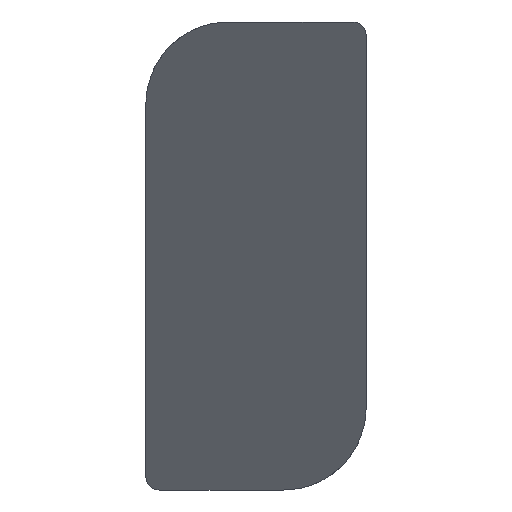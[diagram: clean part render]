
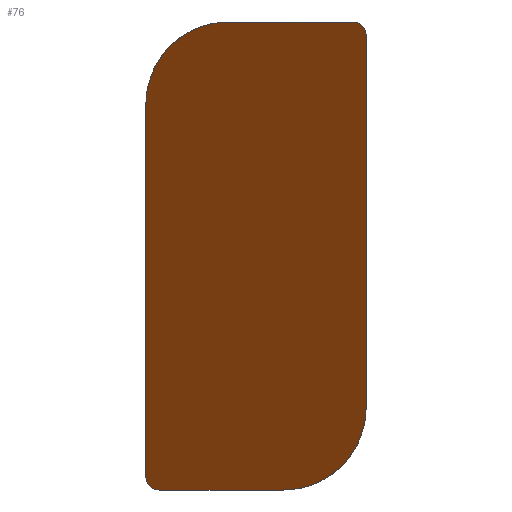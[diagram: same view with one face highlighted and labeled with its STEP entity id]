
A CAD part, left-side view. The second image highlights one B-rep face of the part: STEP entity #76.
In plain terms, the highlighted planar face has unit normal (-0.766, 0, -0.643).
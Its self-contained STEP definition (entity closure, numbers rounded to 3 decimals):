
#7 = VERTEX_POINT ( 'NONE', #61 ) ;
#19 = CARTESIAN_POINT ( 'NONE',  ( -10.5, 0.25, 4.25 ) ) ;
#20 = DIRECTION ( 'NONE',  ( 0.643, 0., -0.766 ) ) ;
#31 = ORIENTED_EDGE ( 'NONE', *, *, #131, .T. ) ;
#34 = CARTESIAN_POINT ( 'NONE',  ( -10.5, 2.5, 4.25 ) ) ;
#52 = DIRECTION ( 'NONE',  ( -0.643, 0., 0.766 ) ) ;
#58 = EDGE_LOOP ( 'NONE', ( #444, #414, #298, #31, #147, #294, #315, #200 ) ) ;
#61 = CARTESIAN_POINT ( 'NONE',  ( -10.29, 0., 4. ) ) ;
#66 = PLANE ( 'NONE',  #326 ) ;
#68 = VECTOR ( 'NONE', #128, 1000. ) ;
#70 =( BOUNDED_CURVE ( )  B_SPLINE_CURVE ( 3, ( #429, #380, #436, #118 ),
 .UNSPECIFIED., .F., .F. ) 
 B_SPLINE_CURVE_WITH_KNOTS ( ( 4, 4 ),
 ( 0., 1.571 ),
 .UNSPECIFIED. ) 
 CURVE ( )  GEOMETRIC_REPRESENTATION_ITEM ( )  RATIONAL_B_SPLINE_CURVE ( ( 1., 0.805, 0.805, 1. ) ) 
 REPRESENTATION_ITEM ( '' )  );
#71 = VERTEX_POINT ( 'NONE', #142 ) ;
#76 = ADVANCED_FACE ( 'NONE', ( #340 ), #66, .F. ) ;
#78 = DIRECTION ( 'NONE',  ( 0., -1., 0. ) ) ;
#85 = EDGE_CURVE ( 'NONE', #105, #71, #162, .T. ) ;
#88 =( BOUNDED_CURVE ( )  B_SPLINE_CURVE ( 3, ( #161, #431, #121, #426 ),
 .UNSPECIFIED., .F., .F. ) 
 B_SPLINE_CURVE_WITH_KNOTS ( ( 4, 4 ),
 ( 1.571, 3.142 ),
 .UNSPECIFIED. ) 
 CURVE ( )  GEOMETRIC_REPRESENTATION_ITEM ( )  RATIONAL_B_SPLINE_CURVE ( ( 1., 0.805, 0.805, 1. ) ) 
 REPRESENTATION_ITEM ( '' )  );
#99 = VECTOR ( 'NONE', #52, 1000. ) ;
#105 = VERTEX_POINT ( 'NONE', #417 ) ;
#111 = CARTESIAN_POINT ( 'NONE',  ( -4.626, 0., -2.75 ) ) ;
#118 = CARTESIAN_POINT ( 'NONE',  ( -9.241, 4., 2.75 ) ) ;
#121 = CARTESIAN_POINT ( 'NONE',  ( -10.5, 0.104, 4.25 ) ) ;
#128 = DIRECTION ( 'NONE',  ( 0., -1., 0. ) ) ;
#131 = EDGE_CURVE ( 'NONE', #428, #253, #290, .T. ) ;
#142 = CARTESIAN_POINT ( 'NONE',  ( -3.368, 3.75, -4.25 ) ) ;
#147 = ORIENTED_EDGE ( 'NONE', *, *, #277, .T. ) ;
#152 = CARTESIAN_POINT ( 'NONE',  ( -4.626, 0., -2.75 ) ) ;
#161 = CARTESIAN_POINT ( 'NONE',  ( -10.29, 0., 4. ) ) ;
#162 =( BOUNDED_CURVE ( )  B_SPLINE_CURVE ( 3, ( #361, #465, #239, #321 ),
 .UNSPECIFIED., .F., .F. ) 
 B_SPLINE_CURVE_WITH_KNOTS ( ( 4, 4 ),
 ( 4.712, 6.283 ),
 .UNSPECIFIED. ) 
 CURVE ( )  GEOMETRIC_REPRESENTATION_ITEM ( )  RATIONAL_B_SPLINE_CURVE ( ( 1., 0.805, 0.805, 1. ) ) 
 REPRESENTATION_ITEM ( '' )  );
#170 = LINE ( 'NONE', #390, #99 ) ;
#178 = LINE ( 'NONE', #433, #396 ) ;
#185 = VERTEX_POINT ( 'NONE', #34 ) ;
#190 = EDGE_CURVE ( 'NONE', #185, #499, #228, .T. ) ;
#194 = CARTESIAN_POINT ( 'NONE',  ( -3.368, 1.5, -4.25 ) ) ;
#200 = ORIENTED_EDGE ( 'NONE', *, *, #248, .T. ) ;
#202 = CARTESIAN_POINT ( 'NONE',  ( -3.368, 0.621, -4.25 ) ) ;
#228 = LINE ( 'NONE', #249, #357 ) ;
#239 = CARTESIAN_POINT ( 'NONE',  ( -3.368, 3.896, -4.25 ) ) ;
#248 = EDGE_CURVE ( 'NONE', #185, #381, #70, .T. ) ;
#249 = CARTESIAN_POINT ( 'NONE',  ( -10.5, 4., 4.25 ) ) ;
#253 = VERTEX_POINT ( 'NONE', #111 ) ;
#257 = EDGE_CURVE ( 'NONE', #7, #499, #88, .T. ) ;
#276 = DIRECTION ( 'NONE',  ( 0.766, 0., 0.643 ) ) ;
#277 = EDGE_CURVE ( 'NONE', #253, #7, #178, .T. ) ;
#290 =( BOUNDED_CURVE ( )  B_SPLINE_CURVE ( 3, ( #194, #202, #472, #152 ),
 .UNSPECIFIED., .F., .F. ) 
 B_SPLINE_CURVE_WITH_KNOTS ( ( 4, 4 ),
 ( 3.142, 4.712 ),
 .UNSPECIFIED. ) 
 CURVE ( )  GEOMETRIC_REPRESENTATION_ITEM ( )  RATIONAL_B_SPLINE_CURVE ( ( 1., 0.805, 0.805, 1. ) ) 
 REPRESENTATION_ITEM ( '' )  );
#294 = ORIENTED_EDGE ( 'NONE', *, *, #257, .T. ) ;
#298 = ORIENTED_EDGE ( 'NONE', *, *, #423, .T. ) ;
#303 = CARTESIAN_POINT ( 'NONE',  ( -3.368, 4., -4.25 ) ) ;
#315 = ORIENTED_EDGE ( 'NONE', *, *, #190, .F. ) ;
#321 = CARTESIAN_POINT ( 'NONE',  ( -3.368, 3.75, -4.25 ) ) ;
#326 = AXIS2_PLACEMENT_3D ( 'NONE', #509, #276, #20 ) ;
#340 = FACE_OUTER_BOUND ( 'NONE', #58, .T. ) ;
#349 = CARTESIAN_POINT ( 'NONE',  ( -3.368, 1.5, -4.25 ) ) ;
#357 = VECTOR ( 'NONE', #78, 1000. ) ;
#361 = CARTESIAN_POINT ( 'NONE',  ( -3.577, 4., -4. ) ) ;
#380 = CARTESIAN_POINT ( 'NONE',  ( -10.5, 3.379, 4.25 ) ) ;
#381 = VERTEX_POINT ( 'NONE', #388 ) ;
#384 = EDGE_CURVE ( 'NONE', #105, #381, #170, .T. ) ;
#388 = CARTESIAN_POINT ( 'NONE',  ( -9.241, 4., 2.75 ) ) ;
#390 = CARTESIAN_POINT ( 'NONE',  ( -10.5, 4., 4.25 ) ) ;
#396 = VECTOR ( 'NONE', #518, 1000. ) ;
#414 = ORIENTED_EDGE ( 'NONE', *, *, #85, .T. ) ;
#417 = CARTESIAN_POINT ( 'NONE',  ( -3.577, 4., -4. ) ) ;
#423 = EDGE_CURVE ( 'NONE', #71, #428, #463, .T. ) ;
#426 = CARTESIAN_POINT ( 'NONE',  ( -10.5, 0.25, 4.25 ) ) ;
#428 = VERTEX_POINT ( 'NONE', #349 ) ;
#429 = CARTESIAN_POINT ( 'NONE',  ( -10.5, 2.5, 4.25 ) ) ;
#431 = CARTESIAN_POINT ( 'NONE',  ( -10.413, 0., 4.146 ) ) ;
#433 = CARTESIAN_POINT ( 'NONE',  ( -10.5, 0., 4.25 ) ) ;
#436 = CARTESIAN_POINT ( 'NONE',  ( -9.979, 4., 3.629 ) ) ;
#444 = ORIENTED_EDGE ( 'NONE', *, *, #384, .F. ) ;
#463 = LINE ( 'NONE', #303, #68 ) ;
#465 = CARTESIAN_POINT ( 'NONE',  ( -3.455, 4., -4.146 ) ) ;
#472 = CARTESIAN_POINT ( 'NONE',  ( -3.889, 0., -3.629 ) ) ;
#499 = VERTEX_POINT ( 'NONE', #19 ) ;
#509 = CARTESIAN_POINT ( 'NONE',  ( -10.5, 4., 4.25 ) ) ;
#518 = DIRECTION ( 'NONE',  ( -0.643, 0., 0.766 ) ) ;
